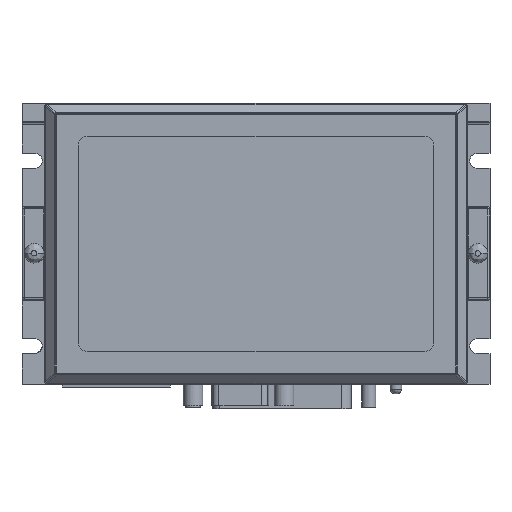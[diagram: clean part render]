
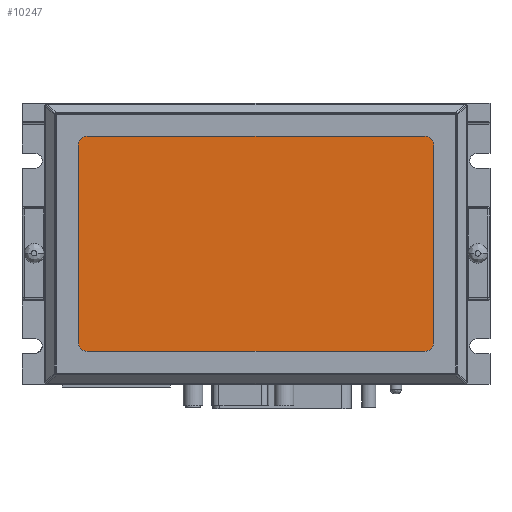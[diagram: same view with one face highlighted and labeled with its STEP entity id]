
A CAD part, top view. The second image highlights one B-rep face of the part: STEP entity #10247.
In plain terms, the highlighted planar face has unit normal (0, 0, 1).
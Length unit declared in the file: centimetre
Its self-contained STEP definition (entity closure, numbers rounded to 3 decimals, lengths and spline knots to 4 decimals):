
#2523=CARTESIAN_POINT('',(-4.572,-2.667,-0.0381));
#2524=DIRECTION('',(0.,0.,1.));
#2525=DIRECTION('',(-1.,0.,0.));
#2526=AXIS2_PLACEMENT_3D('',#2523,#2524,#2525);
#2528=DIRECTION('',(0.,-1.,0.));
#2529=VECTOR('',#2528,5.334);
#2530=CARTESIAN_POINT('',(-4.826,2.667,-0.0381));
#2531=LINE('',#2530,#2529);
#2532=CARTESIAN_POINT('',(-4.572,2.667,-0.0381));
#2533=DIRECTION('',(0.,0.,1.));
#2534=DIRECTION('',(0.,1.,0.));
#2535=AXIS2_PLACEMENT_3D('',#2532,#2533,#2534);
#2537=DIRECTION('',(-1.,0.,0.));
#2538=VECTOR('',#2537,9.144);
#2539=CARTESIAN_POINT('',(4.572,2.921,-0.0381));
#2540=LINE('',#2539,#2538);
#2541=CARTESIAN_POINT('',(4.572,2.667,-0.0381));
#2542=DIRECTION('',(0.,0.,1.));
#2543=DIRECTION('',(1.,0.,0.));
#2544=AXIS2_PLACEMENT_3D('',#2541,#2542,#2543);
#2546=DIRECTION('',(0.,1.,0.));
#2547=VECTOR('',#2546,5.334);
#2548=CARTESIAN_POINT('',(4.826,-2.667,-0.0381));
#2549=LINE('',#2548,#2547);
#2550=CARTESIAN_POINT('',(4.572,-2.667,-0.0381));
#2551=DIRECTION('',(0.,0.,1.));
#2552=DIRECTION('',(0.,-1.,0.));
#2553=AXIS2_PLACEMENT_3D('',#2550,#2551,#2552);
#2555=DIRECTION('',(1.,0.,0.));
#2556=VECTOR('',#2555,9.144);
#2557=CARTESIAN_POINT('',(-4.572,-2.921,-0.0381));
#2558=LINE('',#2557,#2556);
#6101=CARTESIAN_POINT('',(-4.826,-2.667,-0.0381));
#6102=CARTESIAN_POINT('',(-4.572,-2.921,-0.0381));
#6103=VERTEX_POINT('',#6101);
#6104=VERTEX_POINT('',#6102);
#6105=CARTESIAN_POINT('',(4.572,-2.921,-0.0381));
#6106=VERTEX_POINT('',#6105);
#6107=CARTESIAN_POINT('',(4.826,-2.667,-0.0381));
#6108=VERTEX_POINT('',#6107);
#6109=CARTESIAN_POINT('',(4.826,2.667,-0.0381));
#6110=VERTEX_POINT('',#6109);
#6111=CARTESIAN_POINT('',(4.572,2.921,-0.0381));
#6112=VERTEX_POINT('',#6111);
#6113=CARTESIAN_POINT('',(-4.572,2.921,-0.0381));
#6114=VERTEX_POINT('',#6113);
#6115=CARTESIAN_POINT('',(-4.826,2.667,-0.0381));
#6116=VERTEX_POINT('',#6115);
#10225=CARTESIAN_POINT('',(0.,0.,-0.0381));
#10226=DIRECTION('',(0.,0.,1.));
#10227=DIRECTION('',(1.,0.,0.));
#10228=AXIS2_PLACEMENT_3D('',#10225,#10226,#10227);
#10229=PLANE('',#10228);
#10230=ORIENTED_EDGE('',*,*,#10215,.F.);
#10232=ORIENTED_EDGE('',*,*,#10231,.F.);
#10234=ORIENTED_EDGE('',*,*,#10233,.F.);
#10236=ORIENTED_EDGE('',*,*,#10235,.F.);
#10238=ORIENTED_EDGE('',*,*,#10237,.F.);
#10240=ORIENTED_EDGE('',*,*,#10239,.F.);
#10242=ORIENTED_EDGE('',*,*,#10241,.F.);
#10244=ORIENTED_EDGE('',*,*,#10243,.F.);
#10245=EDGE_LOOP('',(#10230,#10232,#10234,#10236,#10238,#10240,#10242,#10244));
#10246=FACE_OUTER_BOUND('',#10245,.F.);
#10247=ADVANCED_FACE('',(#10246),#10229,.T.);
#2527=CIRCLE('',#2526,0.254);
#2536=CIRCLE('',#2535,0.254);
#2545=CIRCLE('',#2544,0.254);
#2554=CIRCLE('',#2553,0.254);
#10215=EDGE_CURVE('',#6103,#6104,#2527,.T.);
#10231=EDGE_CURVE('',#6116,#6103,#2531,.T.);
#10233=EDGE_CURVE('',#6114,#6116,#2536,.T.);
#10235=EDGE_CURVE('',#6112,#6114,#2540,.T.);
#10237=EDGE_CURVE('',#6110,#6112,#2545,.T.);
#10239=EDGE_CURVE('',#6108,#6110,#2549,.T.);
#10241=EDGE_CURVE('',#6106,#6108,#2554,.T.);
#10243=EDGE_CURVE('',#6104,#6106,#2558,.T.);
